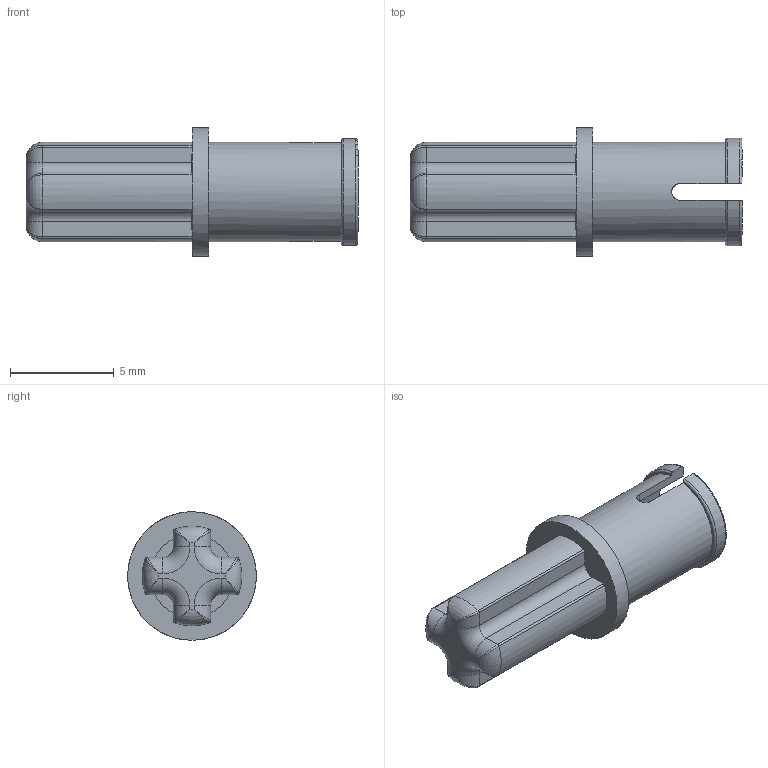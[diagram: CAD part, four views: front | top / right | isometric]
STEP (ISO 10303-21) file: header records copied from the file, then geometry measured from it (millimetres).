
FILE_DESCRIPTION(/* description */ ('Unknown'),/* implementation_level */ '2;1');
FILE_NAME(/* name */ 'Blue_4206482_JCA',/* time_stamp */ '2025-07-21T23:49:52+02:00',/* author */ ('Unknown'),/* organization */ ('Unknown'),/* preprocessor_version */ 'ST-DEVELOPER v19.4',/* originating_system */ 'Solid Edge',/* authorisation */ 'Unknown');
FILE_SCHEMA (('AUTOMOTIVE_DESIGN {1 0 10303 214 3 1 1}'));
Length unit declared in the file: millimetre
Products named in the file (1): Blue_4206482_JCA
Bounding box: 16 x 6.2 x 6.2 mm (x, y, z)
Volume: 172.5 mm3; surface area: 405.3 mm2
Topology: 1 solids, 1 shells, 75 faces, 191 edges, 111 vertices
Faces by surface type: cylinder 31, plane 23, torus 12, bspline 8, cone 1
Full cylindrical faces by diameter (mm): 4 x1, 4.8 x1, 6.2 x1
Entity records: 2307 total; most frequent: CARTESIAN_POINT 646, ORIENTED_EDGE 352, DIRECTION 318, EDGE_CURVE 176, AXIS2_PLACEMENT_3D 123, VERTEX_POINT 108, EDGE_LOOP 80, FACE_BOUND 80
